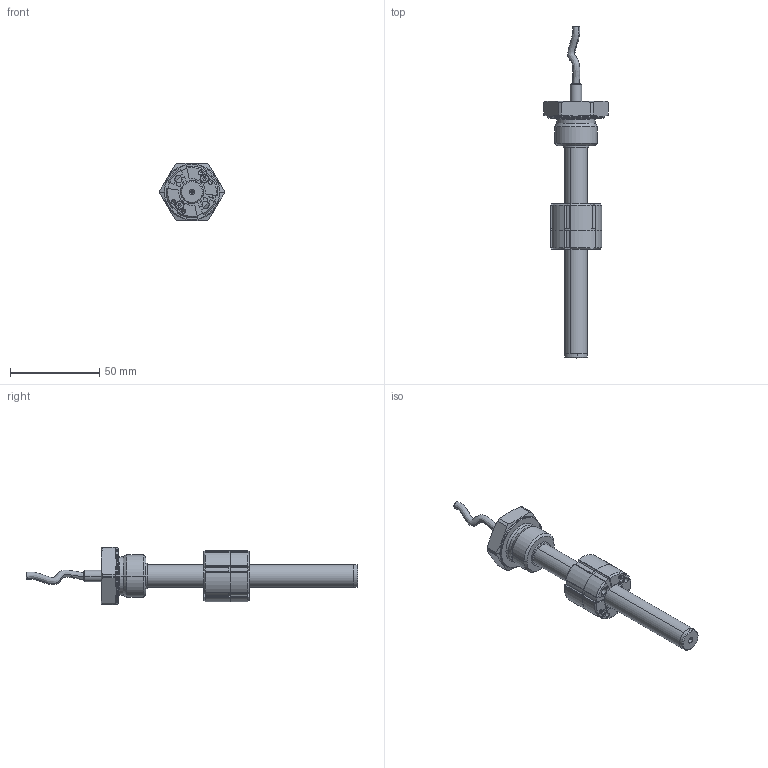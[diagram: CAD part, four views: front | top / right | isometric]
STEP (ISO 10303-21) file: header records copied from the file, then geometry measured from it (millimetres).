
FILE_DESCRIPTION (( 'STEP AP203' ), '1' );
FILE_NAME ('PMISL-F-0050-M.STEP', '2014-04-15T08:35:35', ( 'User' ), ( '' ), 'SwSTEP 2.0', 'SolidWorks 2014', '' );
FILE_SCHEMA (( 'CONFIG_CONTROL_DESIGN' ));
Length unit declared in the file: millimetre
Products named in the file (12): MIM803X_MIM803; CUS847X; INS003X; NIP481X; PCUR010X; TUB535X; TERMORX; PUN016X; PMISL-F-0050-M; TAP014X; PMI-SLIM cavoX; CUS846X
Assembly tree (13 placements, depth 3):
  PMISL-F-0050-M
    NIP481X
    TUB535X
    PUN016X
    TAP014X
    PMI-SLIM cavoX
    PCUR010X
      CUS846X
      MIM803X_MIM803  x2
      CUS847X
      INS003X  x2
    TERMORX
Bounding box: 36 x 186.37 x 32 mm (x, y, z)
Volume: 39084.9 mm3; surface area: 20625.8 mm2
Topology: 12 solids, 12 shells, 990 faces, 2623 edges, 1657 vertices
Faces by surface type: cone 400, cylinder 379, plane 195, torus 10, bspline 6
Entity records: 24009 total; most frequent: CARTESIAN_POINT 4482, DIRECTION 4183, ORIENTED_EDGE 3710, EDGE_CURVE 1855, AXIS2_PLACEMENT_3D 1651, VERTEX_POINT 1186, CIRCLE 944, VECTOR 881
